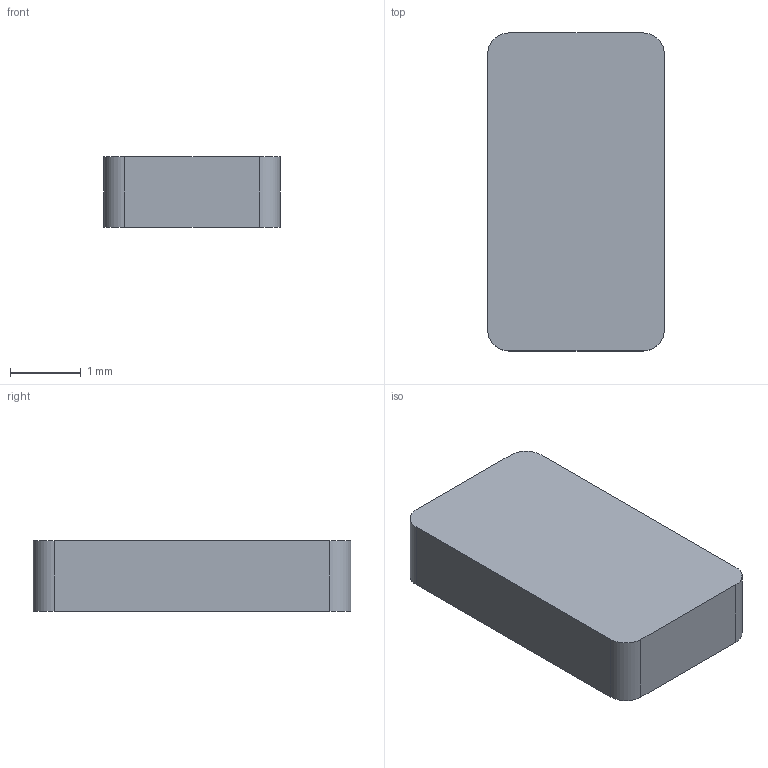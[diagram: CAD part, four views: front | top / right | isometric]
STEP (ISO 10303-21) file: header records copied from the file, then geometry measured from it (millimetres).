
FILE_DESCRIPTION(('Open CASCADE Model'),'2;1');
FILE_NAME('C27_R2_PCB_Rear_Preload_1_FREE_STATE','2026-09-10T02:58:45',( 'Author'),('Open CASCADE'),'Open CASCADE STEP processor 7.9', 'build123d','Unknown');
FILE_SCHEMA(('AUTOMOTIVE_DESIGN { 1 0 10303 214 1 1 1 1 }'));
Length unit declared in the file: millimetre
Products named in the file (1): C27_R2_PCB_Rear_Preload_1_FREE_STATE
Bounding box: 2.5 x 4.5 x 1 mm (x, y, z)
Volume: 11.2 mm3; surface area: 35.8 mm2
Topology: 1 solids, 1 shells, 10 faces, 24 edges, 16 vertices
Faces by surface type: plane 6, cylinder 4
Entity records: 629 total; most frequent: DIRECTION 102, CARTESIAN_POINT 99, LINE 56, VECTOR 56, ORIENTED_EDGE 48, PCURVE 48, DEFINITIONAL_REPRESENTATION 48, EDGE_CURVE 24
